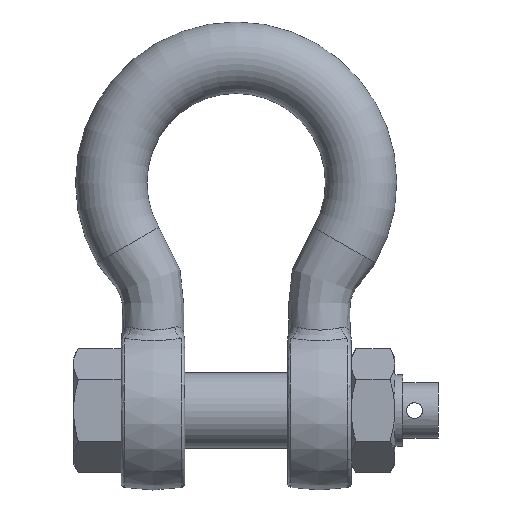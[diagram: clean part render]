
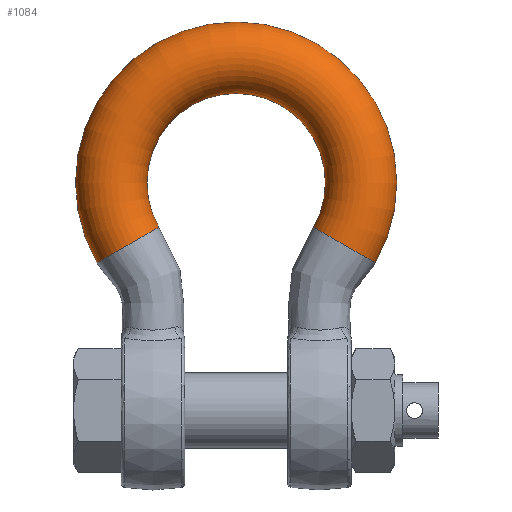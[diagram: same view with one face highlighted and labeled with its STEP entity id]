
A CAD part, top view. The second image highlights one B-rep face of the part: STEP entity #1084.
In plain terms, the highlighted toroidal (fillet/blend) face has major radius 31.5 mm and minor radius 9 mm.
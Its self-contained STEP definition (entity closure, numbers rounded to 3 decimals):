
#127=TOROIDAL_SURFACE('',#1235,31.5,9.);
#195=FACE_OUTER_BOUND('',#268,.T.);
#268=EDGE_LOOP('',(#855,#856,#857,#858,#859,#860));
#410=CIRCLE('',#1236,9.);
#411=CIRCLE('',#1237,9.);
#412=CIRCLE('',#1238,22.5);
#413=CIRCLE('',#1239,9.);
#414=CIRCLE('',#1240,9.);
#491=VERTEX_POINT('',#2873);
#492=VERTEX_POINT('',#2874);
#493=VERTEX_POINT('',#2877);
#494=VERTEX_POINT('',#2879);
#620=EDGE_CURVE('',#491,#492,#410,.T.);
#621=EDGE_CURVE('',#492,#491,#411,.T.);
#622=EDGE_CURVE('',#492,#493,#412,.T.);
#623=EDGE_CURVE('',#493,#494,#413,.T.);
#624=EDGE_CURVE('',#494,#493,#414,.T.);
#855=ORIENTED_EDGE('',*,*,#620,.F.);
#856=ORIENTED_EDGE('',*,*,#621,.F.);
#857=ORIENTED_EDGE('',*,*,#622,.T.);
#858=ORIENTED_EDGE('',*,*,#623,.T.);
#859=ORIENTED_EDGE('',*,*,#624,.T.);
#860=ORIENTED_EDGE('',*,*,#622,.F.);
#1084=ADVANCED_FACE('',(#195),#127,.T.);
#1235=AXIS2_PLACEMENT_3D('',#2872,#1422,#1423);
#1236=AXIS2_PLACEMENT_3D('',#2875,#1424,#1425);
#1237=AXIS2_PLACEMENT_3D('',#2876,#1426,#1427);
#1238=AXIS2_PLACEMENT_3D('',#2878,#1428,#1429);
#1239=AXIS2_PLACEMENT_3D('',#2880,#1430,#1431);
#1240=AXIS2_PLACEMENT_3D('',#2881,#1432,#1433);
#1422=DIRECTION('center_axis',(0.,0.,1.));
#1423=DIRECTION('ref_axis',(0.,1.,0.));
#1424=DIRECTION('center_axis',(0.5,-0.866,0.));
#1425=DIRECTION('ref_axis',(-0.866,-0.5,0.));
#1426=DIRECTION('center_axis',(0.5,-0.866,0.));
#1427=DIRECTION('ref_axis',(-0.866,-0.5,0.));
#1428=DIRECTION('center_axis',(0.,0.,-1.));
#1429=DIRECTION('ref_axis',(0.,1.,0.));
#1430=DIRECTION('center_axis',(0.5,0.866,0.));
#1431=DIRECTION('ref_axis',(0.866,-0.5,0.));
#1432=DIRECTION('center_axis',(0.5,0.866,0.));
#1433=DIRECTION('ref_axis',(0.866,-0.5,0.));
#2872=CARTESIAN_POINT('Origin',(0.,57.5,0.));
#2873=CARTESIAN_POINT('',(-35.074,37.25,0.));
#2874=CARTESIAN_POINT('',(-19.486,46.25,0.));
#2875=CARTESIAN_POINT('Origin',(-27.28,41.75,0.));
#2876=CARTESIAN_POINT('Origin',(-27.28,41.75,0.));
#2877=CARTESIAN_POINT('',(19.486,46.25,0.));
#2878=CARTESIAN_POINT('Origin',(0.,57.5,0.));
#2879=CARTESIAN_POINT('',(35.074,37.25,0.));
#2880=CARTESIAN_POINT('Origin',(27.28,41.75,0.));
#2881=CARTESIAN_POINT('Origin',(27.28,41.75,0.));
